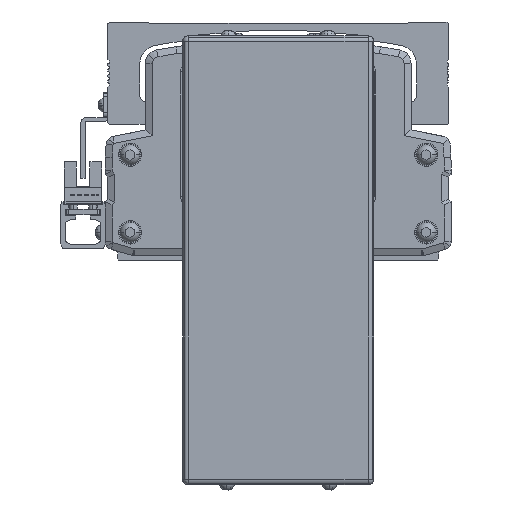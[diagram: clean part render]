
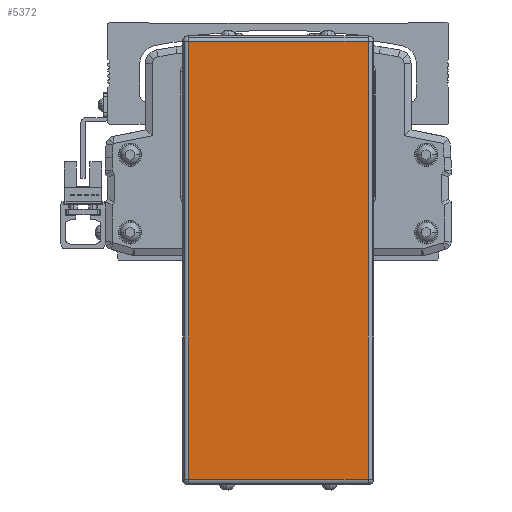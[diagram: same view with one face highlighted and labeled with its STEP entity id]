
A CAD part, front view. The second image highlights one B-rep face of the part: STEP entity #5372.
In plain terms, the highlighted planar face has unit normal (0, -1, 0).
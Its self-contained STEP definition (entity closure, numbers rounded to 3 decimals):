
#5372=ADVANCED_FACE('',(#11741),#11742,.T.);
#11741=FACE_OUTER_BOUND('',#20009,.T.);
#11742=PLANE('',#20010);
#20009=EDGE_LOOP('',(#36348,#36349,#36350,#36351));
#20010=AXIS2_PLACEMENT_3D('',#36352,#36353,#36354);
#36348=ORIENTED_EDGE('',*,*,#52572,.F.);
#36349=ORIENTED_EDGE('',*,*,#50989,.F.);
#36350=ORIENTED_EDGE('',*,*,#50346,.F.);
#36351=ORIENTED_EDGE('',*,*,#52573,.F.);
#36352=CARTESIAN_POINT('',(-299.996,-38.778,-49.1));
#36353=DIRECTION('',(0.,-1.0,0.));
#36354=DIRECTION('',(1.0,0.,0.));
#50346=EDGE_CURVE('',#61694,#61839,#61840,.T.);
#50989=EDGE_CURVE('',#61839,#62771,#62772,.T.);
#52572=EDGE_CURVE('',#62771,#64923,#64924,.T.);
#52573=EDGE_CURVE('',#64923,#61694,#64925,.T.);
#61694=VERTEX_POINT('',#77461);
#61839=VERTEX_POINT('',#77664);
#61840=LINE('',#77665,#77666);
#62771=VERTEX_POINT('',#79063);
#62772=LINE('',#79064,#79065);
#64923=VERTEX_POINT('',#82258);
#64924=LINE('',#82259,#82260);
#64925=LINE('',#82261,#82262);
#77461=CARTESIAN_POINT('',(-332.496,-38.778,-128.2));
#77664=CARTESIAN_POINT('',(-332.496,-38.778,30.));
#77665=CARTESIAN_POINT('',(-332.496,-38.778,-49.1));
#77666=VECTOR('',#91250,10.0);
#79063=CARTESIAN_POINT('',(-267.496,-38.778,30.));
#79064=CARTESIAN_POINT('',(-299.996,-38.778,30.));
#79065=VECTOR('',#91996,10.0);
#82258=CARTESIAN_POINT('',(-267.496,-38.778,-128.2));
#82259=CARTESIAN_POINT('',(-267.496,-38.778,-49.1));
#82260=VECTOR('',#93872,10.0);
#82261=CARTESIAN_POINT('',(-299.996,-38.778,-128.2));
#82262=VECTOR('',#93873,10.0);
#91250=DIRECTION('',(0.0,0.,1.0));
#91996=DIRECTION('',(1.0,0.,0.));
#93872=DIRECTION('',(0.0,0.,-1.0));
#93873=DIRECTION('',(-1.0,0.,0.));
